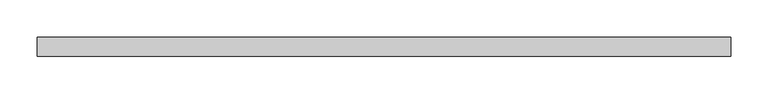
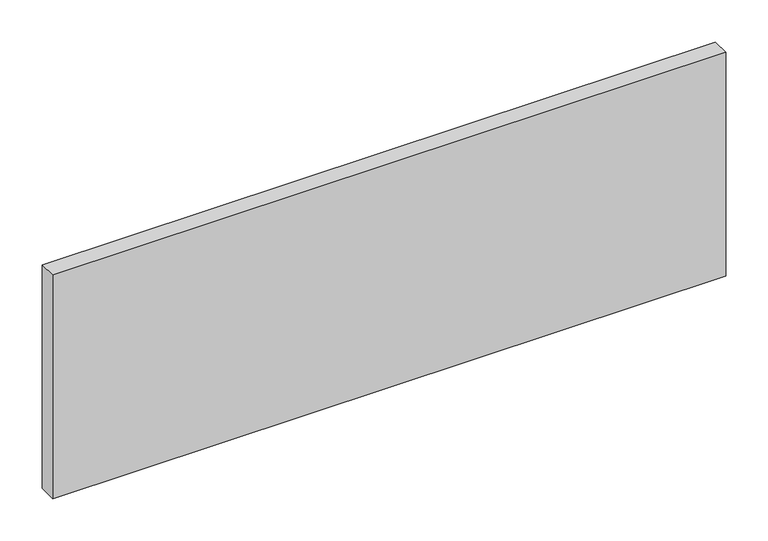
"""IFC4 building model written with IfcOpenShell, lengths in millimetres: plate geometry, Systémový panel : Zasklené."""

from ifc_helpers import new_model, si_unit, origin, origin_with_axes, place, context, project, spatial, polyline, outline, extrude, source, transform, mapped, element, save


def plate_e159d5d1(model_context):
    return source(origin(), model_context, "Body", "SweptSolid", [
        extrude(outline(polyline([(462.5, -49.5), (-462.5, -49.5), (-462.5, -24.5), (462.5, -24.5), (462.5, -49.5)])), origin_with_axes(), (0.0, 0.0, 1.0), 325.0),
    ])


if __name__ == "__main__":
    model = new_model("IFC4")
    model_context = context("Model", 3, world=origin())
    ifc_project = project(units=[si_unit("LENGTHUNIT", "METRE", prefix="MILLI")], contexts=[model_context])
    site = spatial("IfcSite", under=ifc_project)
    building = spatial("IfcBuilding", under=site)
    placement = place(None, origin())
    plate_shape = plate_e159d5d1(model_context)
    element("IfcPlate", 1, ObjectType="Systémový panel : Zasklené", at=placement, inside=building, context=model_context, shape_type="MappedRepresentation", body=[
        mapped(plate_shape, transform((0.0, 0.0, 0.0), x_axis=(1.0, 0.0, 0.0), y_axis=(0.0, 1.0, 0.0), z_axis=(0.0, 0.0, 1.0))),
    ])
    save(model, "model.ifc")
